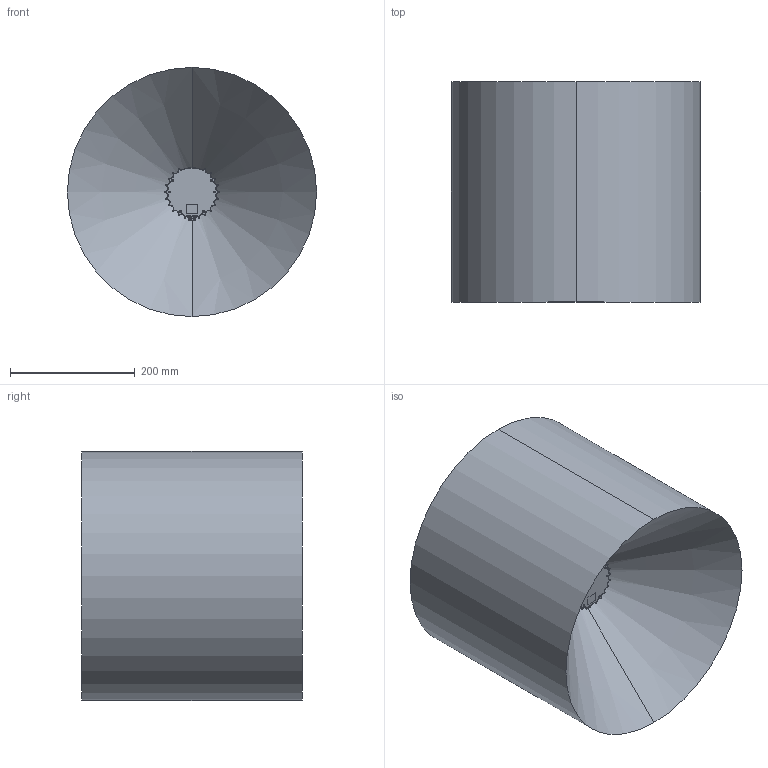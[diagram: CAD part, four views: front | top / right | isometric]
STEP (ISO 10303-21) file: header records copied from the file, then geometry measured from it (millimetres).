
FILE_DESCRIPTION (( 'STEP AP214' ), '1' );
FILE_NAME ('840-102144-D-SensorAssemblyOS0_FlatCap_FOV.STEP', '2020-12-14T17:49:29', ( '' ), ( '' ), 'SwSTEP 2.0', 'SolidWorks 2020', '' );
FILE_SCHEMA (( 'AUTOMOTIVE_DESIGN' ));
Length unit declared in the file: millimetre
Products named in the file (3): defeature_840-102144-D-SensorAssemblyOS0_FlatCap; 840-102144-D-SensorAssemblyOS0_FlatCap_FOV; sensor_fov_OS0
Assembly tree (2 placements, depth 2):
  840-102144-D-SensorAssemblyOS0_FlatCap_FOV
    defeature_840-102144-D-SensorAssemblyOS0_FlatCap
    sensor_fov_OS0
Bounding box: 400 x 353.95 x 400 mm (x, y, z)
Volume: 27976620 mm3; surface area: 821330.5 mm2
Topology: 2 solids, 2 shells, 954 faces, 2344 edges, 1422 vertices
Faces by surface type: cone 347, cylinder 276, plane 257, bspline 64, torus 8, sphere 2
Entity records: 41948 total; most frequent: CARTESIAN_POINT 16899, ORIENTED_EDGE 4558, DIRECTION 4329, EDGE_CURVE 2279, AXIS2_PLACEMENT_3D 1695, VERTEX_POINT 1422, EDGE_LOOP 1049, ADVANCED_FACE 954
